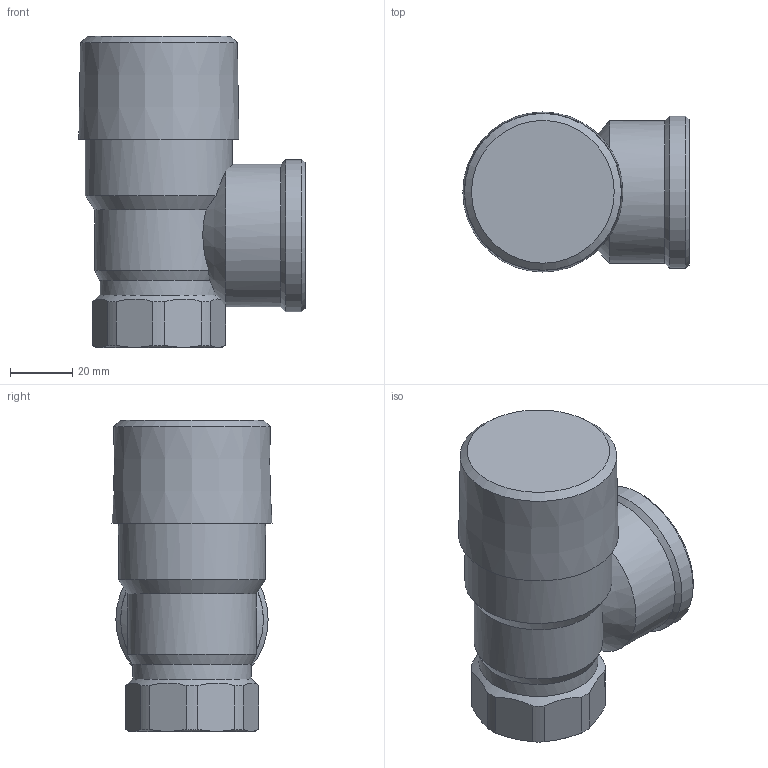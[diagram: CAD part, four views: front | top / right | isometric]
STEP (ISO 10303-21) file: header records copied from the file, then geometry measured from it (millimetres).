
FILE_DESCRIPTION(/* description */ (''),/* implementation_level */ '2;1');
FILE_NAME(/* name */ '\\DATASERVER\data\Flamco\3D-Modellen\Inventor\3D-CAD\Prescor\Prescor B\28993_prescor_b_1_5-4_7.stp',/* time_stamp */ '2018-06-07T15:15:11+02:00',/* author */ ('kasius'),/* organization */ (''),/* preprocessor_version */ 'ST-DEVELOPER v16.5',/* originating_system */ 'Autodesk Inventor 2017',/* authorisation */ '');
FILE_SCHEMA (('AUTOMOTIVE_DESIGN { 1 0 10303 214 3 1 1 }'));
Length unit declared in the file: millimetre
Products named in the file (1): 28993_prescor_b_1x5-4_7
Bounding box: 72.72 x 51.43 x 100 mm (x, y, z)
Volume: 165994.7 mm3; surface area: 27989.7 mm2
Topology: 1 solids, 1 shells, 41 faces, 104 edges, 68 vertices
Faces by surface type: cylinder 15, plane 14, cone 12
Full cylindrical faces by diameter (mm): 30.281 x1, 39.311 x1, 45.894 x1, 47.277 x1, 48.922 x1
Entity records: 1232 total; most frequent: CARTESIAN_POINT 314, DIRECTION 184, ORIENTED_EDGE 174, EDGE_CURVE 87, AXIS2_PLACEMENT_3D 84, VERTEX_POINT 63, EDGE_LOOP 56, FACE_OUTER_BOUND 41
